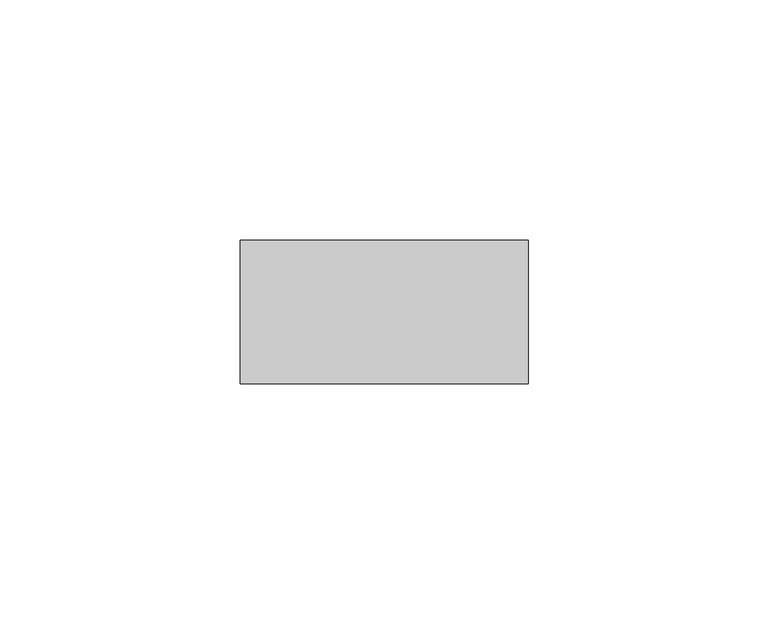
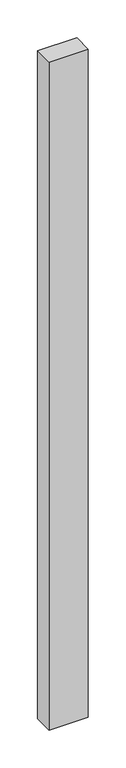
"""IFC4 building model written with IfcOpenShell, lengths in millimetres: member geometry, Прямоугольный импост : Квадрат 30 мм."""

from ifc_helpers import new_model, si_unit, frame, origin, place, context, project, spatial, polyline, outline, extrude, source, transform, mapped, element, save


def member_3de5514d(model_context):
    return source(origin(), model_context, "Body", "SweptSolid", [
        extrude(outline(polyline([(30.0, 15.0), (30.0, -15.0), (-30.0, -15.0), (-30.0, 15.0), (30.0, 15.0)])), frame((0.0, 0.0, -1078.1535386), z_axis=(0.0, 0.0, 1.0), x_axis=(1.0, 0.0, 0.0)), (0.0, 0.0, 1.0), 1078.1535386),
    ])


if __name__ == "__main__":
    model = new_model("IFC4")
    model_context = context("Model", 3, world=origin())
    ifc_project = project(units=[si_unit("LENGTHUNIT", "METRE", prefix="MILLI")], contexts=[model_context])
    site = spatial("IfcSite", under=ifc_project)
    building = spatial("IfcBuilding", under=site)
    placement = place(None, origin())
    member_shape = member_3de5514d(model_context)
    element("IfcMember", 1, ObjectType="Прямоугольный импост : Квадрат 30 мм", at=placement, inside=building, context=model_context, shape_type="MappedRepresentation", body=[
        mapped(member_shape, transform((0.0, 0.0, 0.0), x_axis=(1.0, 0.0, 0.0), y_axis=(0.0, 1.0, 0.0), z_axis=(0.0, 0.0, 1.0))),
    ])
    save(model, "model.ifc")
